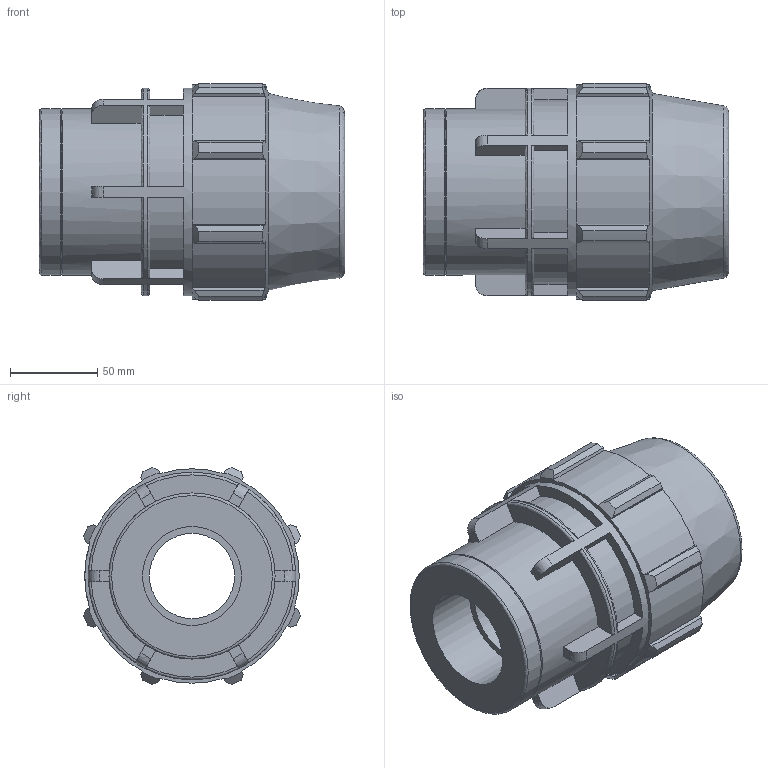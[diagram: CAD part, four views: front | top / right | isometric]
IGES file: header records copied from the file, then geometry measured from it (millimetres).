
Global section: file name: 0703060750200A.ipt; native system: Autodesk Inventor 2015; preprocessor: unknown; author: KIM; date: 20180325.201148; units: millimetre
Bounding box: 175 x 124.2 x 124.2 mm (x, y, z)
Volume: 923538.8 mm3; surface area: 126834.3 mm2
Topology: 1 solids, 1 shells, 148 faces, 413 edges, 277 vertices
Faces by surface type: plane 86, revolution 25, cylinder 25, cone 12
Full cylindrical faces by diameter (mm): 95.04 x2, 118.8 x1
